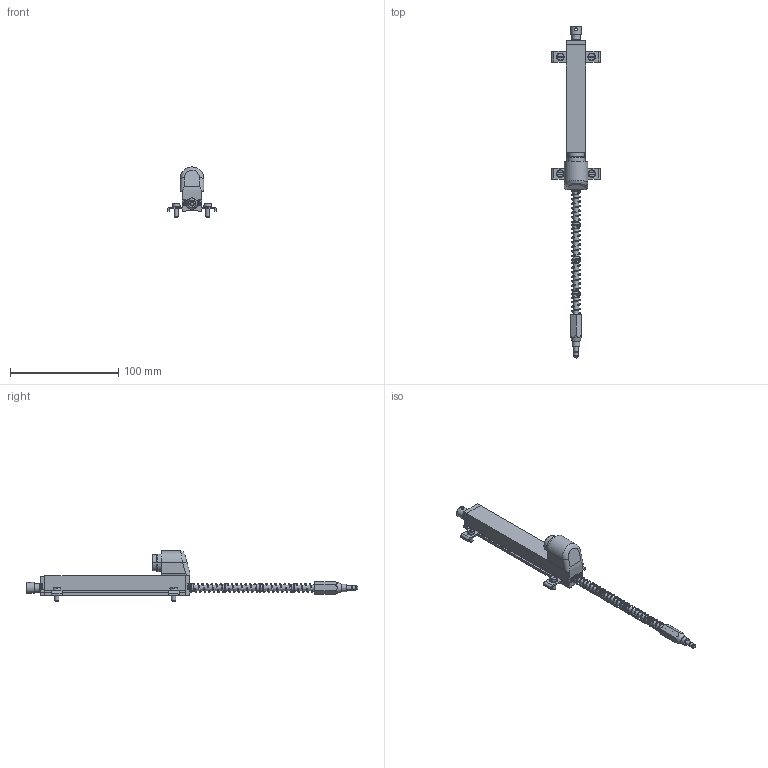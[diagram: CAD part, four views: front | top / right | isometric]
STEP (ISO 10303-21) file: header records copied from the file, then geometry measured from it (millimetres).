
FILE_DESCRIPTION( ( 'Unknown' ), '1' );
FILE_NAME( 'P:/Fertigung_TTS/2_TTS/1_CAD-Daten/4_Handelsware/3_Linearpotentiometer/LRW2_LRW3/4_Step/LRW2-C-100.stp', 'Unknown', ( 'WayCon' ), ( 'WayCon Positionsmesstechnik' ), 'PSStep 17.0.49', 'Unknown', ' ' );
FILE_SCHEMA( ( 'AUTOMOTIVE_DESIGN { 1 0 10303 214 1 1 1 1 }' ) );
Length unit declared in the file: millimetre
Products named in the file (39): MIM600X; MIM892X_ISO 1207 - M4 x 10 --- 10S; BUS023X; Molla PY compressa MIM401X_Posizione Lavoro; TES053X; BUS015X; BUS022X; TAS000X_Assemblato; MIM828X_ISO 7045 - M2.5 x 8 - Z --- 8S; STA029X; MIM510X_DIN 6905-3.6-FSt; PUN001X; CUS046X; 1; TES049X; CON010X
Bounding box: 45 x 306.99 x 46.3 mm (x, y, z)
Volume: 1300.8 mm3; surface area: 28585.3 mm2
Topology: 12 solids, 378 shells, 461 faces, 1969 edges, 1845 vertices
Faces by surface type: plane 269, cylinder 106, cone 51, torus 20, sphere 10, bspline 5
Full cylindrical faces by diameter (mm): 1.6 x1, 2 x1, 2.5 x2, 3.2 x1, 3.8 x2, 4 x10, 4.3 x4, 5 x5, 5.1 x5, 6.3 x8, 7 x2, 7.8 x5, 8 x1, 8.5 x1, 10 x1, 20.2 x1
Entity records: 29436 total; most frequent: CARTESIAN_POINT 10518, DIRECTION 3248, ORIENTED_EDGE 1943, EDGE_CURVE 1813, VERTEX_POINT 1796, AXIS2_PLACEMENT_3D 1190, LINE 868, VECTOR 868
